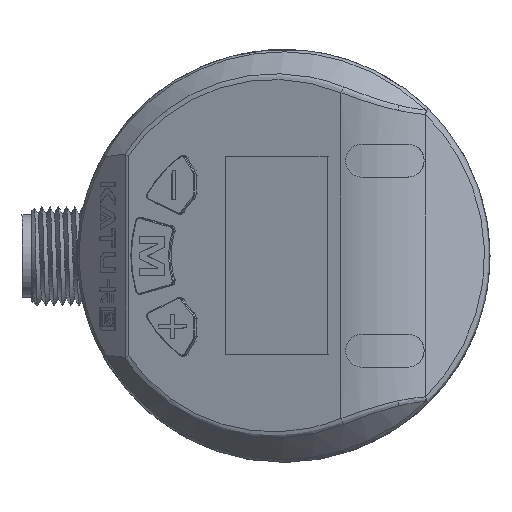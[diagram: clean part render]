
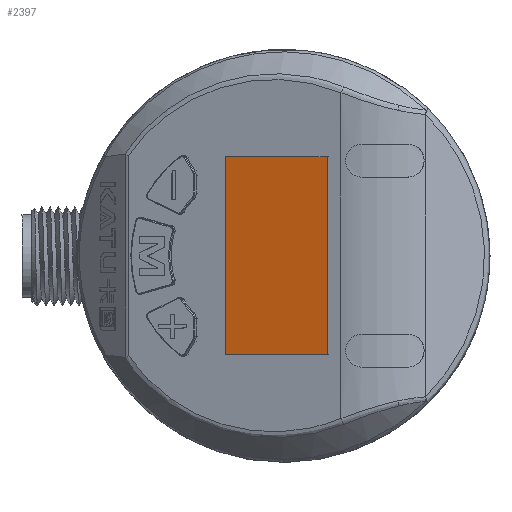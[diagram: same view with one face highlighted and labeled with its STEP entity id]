
A CAD part, top view. The second image highlights one B-rep face of the part: STEP entity #2397.
In plain terms, the highlighted planar face has unit normal (-0.342, 0, 0.94).
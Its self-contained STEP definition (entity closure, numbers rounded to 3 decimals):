
#1477=PLANE('',#12369);
#2397=ADVANCED_FACE('',(#3060),#1477,.T.);
#3060=FACE_OUTER_BOUND('',#3857,.T.);
#3857=EDGE_LOOP('',(#7291,#7292,#7293,#7294));
#7291=ORIENTED_EDGE('',*,*,#9778,.T.);
#7292=ORIENTED_EDGE('',*,*,#9779,.T.);
#7293=ORIENTED_EDGE('',*,*,#9780,.T.);
#7294=ORIENTED_EDGE('',*,*,#9781,.T.);
#8340=VERTEX_POINT('',#25970);
#8341=VERTEX_POINT('',#25971);
#8342=VERTEX_POINT('',#25973);
#8343=VERTEX_POINT('',#25975);
#9778=EDGE_CURVE('',#8340,#8341,#10559,.T.);
#9779=EDGE_CURVE('',#8341,#8342,#10560,.T.);
#9780=EDGE_CURVE('',#8342,#8343,#10561,.T.);
#9781=EDGE_CURVE('',#8343,#8340,#10562,.T.);
#10559=LINE('',#25969,#11326);
#10560=LINE('',#25972,#11327);
#10561=LINE('',#25974,#11328);
#10562=LINE('',#25976,#11329);
#11326=VECTOR('',#15173,1.);
#11327=VECTOR('',#15174,1.);
#11328=VECTOR('',#15175,1.);
#11329=VECTOR('',#15176,1.);
#12369=AXIS2_PLACEMENT_3D('',#25977,#15177,#15178);
#15173=DIRECTION('',(-0.94,0.,-0.342));
#15174=DIRECTION('',(0.,-1.,0.));
#15175=DIRECTION('',(0.94,0.,0.342));
#15176=DIRECTION('',(0.,1.,0.));
#15177=DIRECTION('',(-0.342,0.,0.94));
#15178=DIRECTION('',(-0.94,0.,-0.342));
#25969=CARTESIAN_POINT('',(14.306,12.006,98.376));
#25970=CARTESIAN_POINT('',(5.258,12.002,95.083));
#25971=CARTESIAN_POINT('',(-7.061,11.997,90.599));
#25972=CARTESIAN_POINT('',(-7.051,-15.759,90.603));
#25973=CARTESIAN_POINT('',(-7.052,-11.997,90.602));
#25974=CARTESIAN_POINT('',(14.315,-11.988,98.379));
#25975=CARTESIAN_POINT('',(5.267,-11.992,95.086));
#25976=CARTESIAN_POINT('',(5.268,-15.753,95.086));
#25977=CARTESIAN_POINT('',(14.316,-15.75,98.379));
